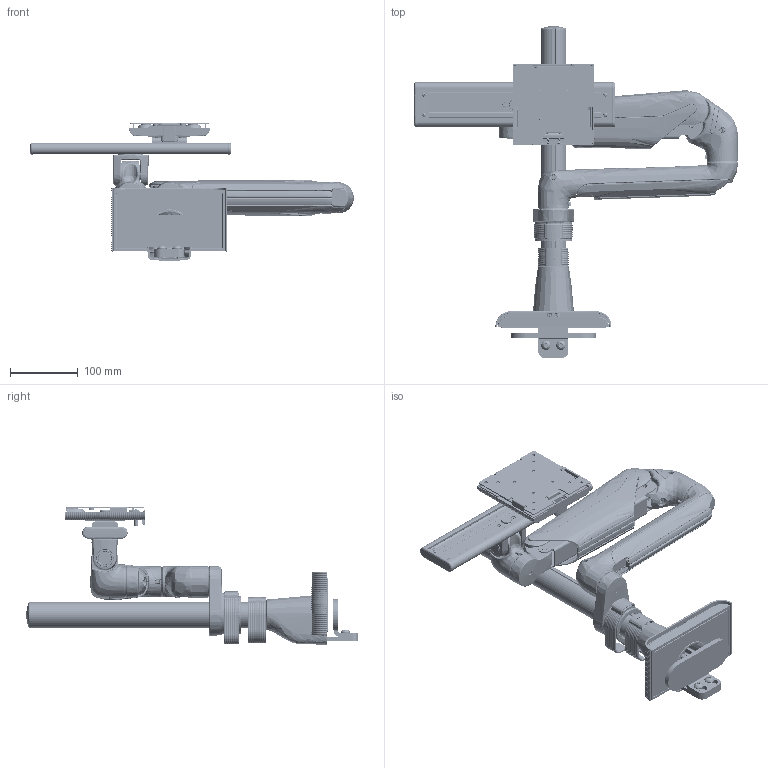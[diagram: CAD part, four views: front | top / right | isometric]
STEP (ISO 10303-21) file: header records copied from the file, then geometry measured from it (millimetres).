
FILE_DESCRIPTION(/* description */ (''),/* implementation_level */ '2;1');
FILE_NAME(/* name */ 'E5-P01SD_Simplify_1.stp',/* time_stamp */ '2024-04-18T15:36:16-04:00',/* author */ ('sbowman'),/* organization */ (''),/* preprocessor_version */ 'ST-DEVELOPER v19.2',/* originating_system */ 'Autodesk Inventor 2023',/* authorisation */ '');
FILE_SCHEMA (('AUTOMOTIVE_DESIGN { 1 0 10303 214 3 1 1 }'));
Length unit declared in the file: millimetre
Products named in the file (1): Single Dynamic, Pole Assembly_Simplify_1
Bounding box: 479.18 x 491.45 x 203.94 mm (x, y, z)
Volume: 1743726.4 mm3; surface area: 904305.2 mm2
Topology: 13 solids, 13 shells, 27024 faces, 67406 edges, 40832 vertices
Faces by surface type: plane 9557, bspline 9225, cylinder 5018, sphere 1185, cone 1066, torus 973
Full cylindrical faces by diameter (mm): 1.76 x12, 2.013 x9, 2.35 x32, 2.459 x4, 3 x24, 3.091 x48, 3.242 x46, 3.4 x4, 4 x22, 4.2 x2, 4.5 x8, 4.6 x1, 5 x17, 5.5 x4, 6 x9, 6.1 x18, 6.3 x1, 6.376 x192, 6.4 x4, 6.5 x2, 6.647 x35, 6.655 x4, 7.5 x3, 7.87 x4, 8 x165, 8.2 x1, 8.4 x1, 9 x4, 9.3 x1, 12 x1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
Entity records: 1173949 total; most frequent: CARTESIAN_POINT 588645, ORIENTED_EDGE 134292, DIRECTION 101401, EDGE_CURVE 67146, VERTEX_POINT 40835, AXIS2_PLACEMENT_3D 36040, LINE 29321, VECTOR 29321
